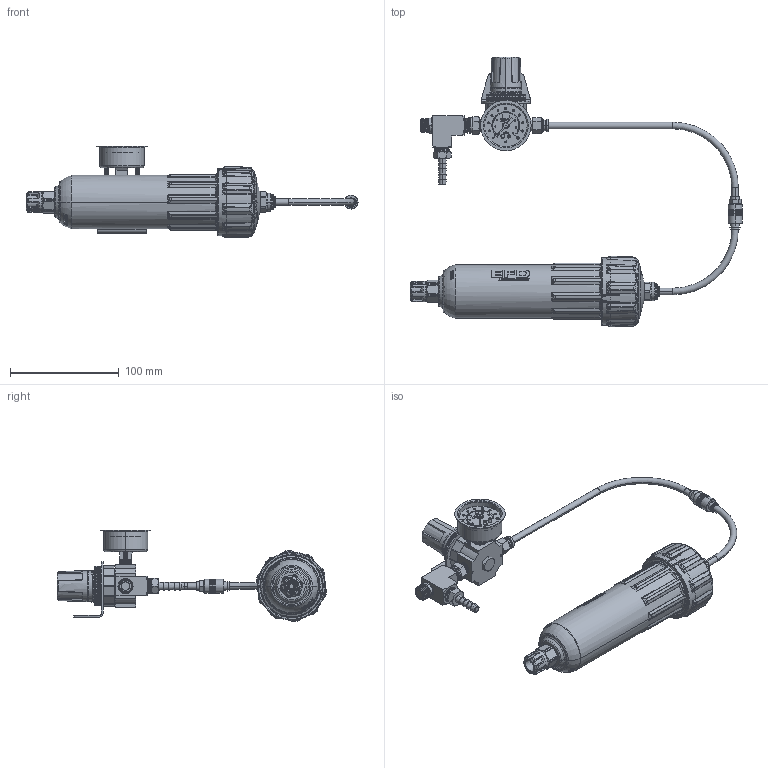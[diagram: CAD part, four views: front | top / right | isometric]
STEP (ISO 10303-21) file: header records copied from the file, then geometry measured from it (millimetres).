
FILE_DESCRIPTION (( 'STEP AP214' ), '1' );
FILE_NAME ('NORDSONEFD-7012435 RETAINER SYS O 6OZ CLBL 100 PSI7BAR.STEP', '2019-03-06T03:14:56', ( '' ), ( '' ), 'SwSTEP 2.0', 'SolidWorks 2019', '' );
FILE_SCHEMA (( 'AUTOMOTIVE_DESIGN' ));
Length unit declared in the file: inch
Products named in the file (1): NORDSONEFD-7012435 RETAINER SYS O 6OZ CLBL 100 PSI7BAR
Bounding box: 304.82 x 247.56 x 84.04 mm (x, y, z)
Volume: 251647.5 mm3; surface area: 188878 mm2
Topology: 20 solids, 20 shells, 6619 faces, 16497 edges, 10074 vertices
Faces by surface type: bspline 2752, plane 1741, cylinder 883, cone 612, torus 551, sphere 80
Entity records: 372724 total; most frequent: CARTESIAN_POINT 228388, ORIENTED_EDGE 32774, DIRECTION 21231, EDGE_CURVE 16387, VERTEX_POINT 10074, AXIS2_PLACEMENT_3D 8146, B_SPLINE_CURVE_WITH_KNOTS 6940, EDGE_LOOP 6915
